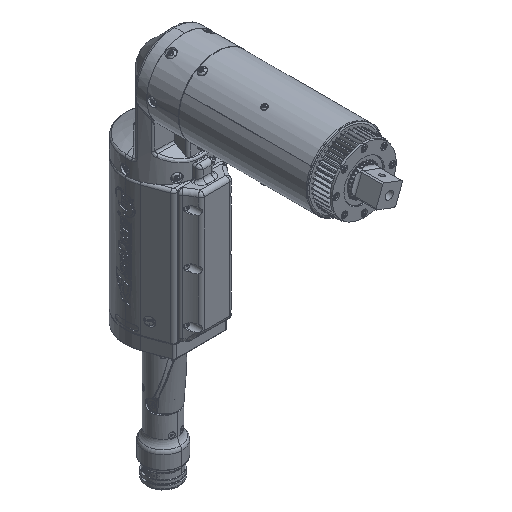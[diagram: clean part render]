
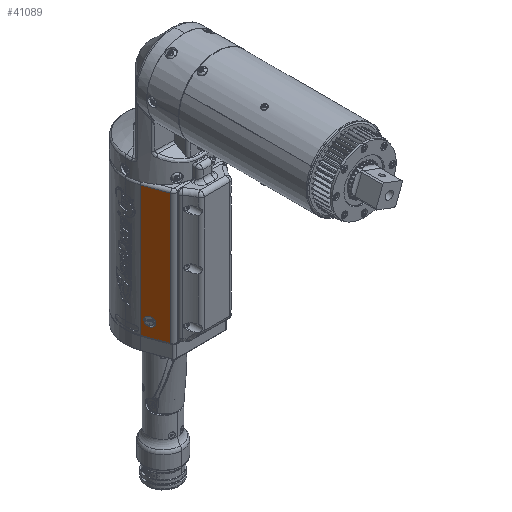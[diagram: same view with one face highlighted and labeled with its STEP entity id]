
A CAD part, isometric view. The second image highlights one B-rep face of the part: STEP entity #41089.
In plain terms, the highlighted planar face has unit normal (-0.94, -0.342, 0).
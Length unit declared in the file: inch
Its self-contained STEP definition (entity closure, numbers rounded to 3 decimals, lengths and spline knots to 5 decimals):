
#2135 = DIRECTION ( 'NONE',  ( 0.342, -0.94, 0. ) ) ;
#3045 = CARTESIAN_POINT ( 'NONE',  ( -1.30839, -1.66839, -12.415 ) ) ;
#3421 = CARTESIAN_POINT ( 'NONE',  ( -1.58292, -0.9139, -11.95248 ) ) ;
#10677 = CARTESIAN_POINT ( 'NONE',  ( -1.53272, -1.05186, -11.49735 ) ) ;
#11285 = ORIENTED_EDGE ( 'NONE', *, *, #49091, .F. ) ;
#13197 = EDGE_CURVE ( 'NONE', #51987, #90099, #75400, .T. ) ;
#13338 = DIRECTION ( 'NONE',  ( -0.342, 0.94, 0. ) ) ;
#14229 = VERTEX_POINT ( 'NONE', #52585 ) ;
#16234 = CARTESIAN_POINT ( 'NONE',  ( -1.49414, -1.15789, -11.59142 ) ) ;
#18057 = CARTESIAN_POINT ( 'NONE',  ( -1.49414, -1.15789, -11.88058 ) ) ;
#19765 = CARTESIAN_POINT ( 'NONE',  ( -1.2605, -1.8, -6.24 ) ) ;
#22065 = ORIENTED_EDGE ( 'NONE', *, *, #13197, .T. ) ;
#23757 = DIRECTION ( 'NONE',  ( 0., 0., 1. ) ) ;
#24663 = DIRECTION ( 'NONE',  ( -0.342, 0.94, 0. ) ) ;
#29316 = CARTESIAN_POINT ( 'NONE',  ( -1.2605, -1.8, -12.415 ) ) ;
#29688 = CARTESIAN_POINT ( 'NONE',  ( -1.58292, -0.9139, -11.51952 ) ) ;
#30659 = DIRECTION ( 'NONE',  ( 0.94, 0.342, 0. ) ) ;
#31032 = CARTESIAN_POINT ( 'NONE',  ( -1.58292, -0.9139, -11.51952 ) ) ;
#31372 = ORIENTED_EDGE ( 'NONE', *, *, #49476, .F. ) ;
#32702 = DIRECTION ( 'NONE',  ( 0., 0., 1. ) ) ;
#37202 = VERTEX_POINT ( 'NONE', #29688 ) ;
#37348 = CARTESIAN_POINT ( 'NONE',  ( -1.53272, -1.05186, -11.97465 ) ) ;
#38014 = FACE_BOUND ( 'NONE', #68211, .T. ) ;
#41089 = ADVANCED_FACE ( 'NONE', ( #58692, #38014 ), #72917, .F. ) ;
#43619 = VERTEX_POINT ( 'NONE', #85203 ) ;
#44825 = CARTESIAN_POINT ( 'NONE',  ( -1.69796, -0.59773, -11.57034 ) ) ;
#45364 = LINE ( 'NONE', #87672, #49288 ) ;
#45653 = CARTESIAN_POINT ( 'NONE',  ( -1.58292, -0.9139, -11.95248 ) ) ;
#46194 = CARTESIAN_POINT ( 'NONE',  ( -1.69796, -0.59773, -11.90166 ) ) ;
#46964 = LINE ( 'NONE', #67171, #59738 ) ;
#47974 = CARTESIAN_POINT ( 'NONE',  ( -1.30839, -1.66839, -12.415 ) ) ;
#49091 = EDGE_CURVE ( 'NONE', #37202, #14229, #55760, .T. ) ;
#49288 = VECTOR ( 'NONE', #24663, 39.37008 ) ;
#49476 = EDGE_CURVE ( 'NONE', #14229, #37202, #59410, .T. ) ;
#51925 = EDGE_CURVE ( 'NONE', #43619, #90099, #46964, .T. ) ;
#51987 = VERTEX_POINT ( 'NONE', #68975 ) ;
#52585 = CARTESIAN_POINT ( 'NONE',  ( -1.58292, -0.9139, -11.95248 ) ) ;
#55760 =( BOUNDED_CURVE ( )  B_SPLINE_CURVE ( 3, ( #31032, #44825, #46194, #3421 ),
 .UNSPECIFIED., .F., .T. ) 
 B_SPLINE_CURVE_WITH_KNOTS ( ( 4, 4 ),
 ( 1.72477, 4.55842 ),
 .UNSPECIFIED. ) 
 CURVE ( )  GEOMETRIC_REPRESENTATION_ITEM ( )  RATIONAL_B_SPLINE_CURVE ( ( 1., 0.436, 0.436, 1. ) ) 
 REPRESENTATION_ITEM ( '' )  );
#58496 = CARTESIAN_POINT ( 'NONE',  ( -1.58292, -0.9139, -11.51952 ) ) ;
#58613 = ORIENTED_EDGE ( 'NONE', *, *, #88860, .F. ) ;
#58692 = FACE_OUTER_BOUND ( 'NONE', #69525, .T. ) ;
#59410 =( BOUNDED_CURVE ( )  B_SPLINE_CURVE ( 3, ( #45653, #37348, #18057, #80616, #16234, #10677, #58496 ),
 .UNSPECIFIED., .F., .F. ) 
 B_SPLINE_CURVE_WITH_KNOTS ( ( 4, 3, 4 ),
 ( 4.55842, 6.28319, 8.00795 ),
 .UNSPECIFIED. ) 
 CURVE ( )  GEOMETRIC_REPRESENTATION_ITEM ( )  RATIONAL_B_SPLINE_CURVE ( ( 1., 0.767, 0.767, 1., 0.767, 0.767, 1. ) ) 
 REPRESENTATION_ITEM ( '' )  );
#59738 = VECTOR ( 'NONE', #32702, 39.37008 ) ;
#60682 = EDGE_CURVE ( 'NONE', #75285, #51987, #79865, .T. ) ;
#63516 = ORIENTED_EDGE ( 'NONE', *, *, #51925, .F. ) ;
#67171 = CARTESIAN_POINT ( 'NONE',  ( -1.6915, -0.61548, -12.415 ) ) ;
#68211 = EDGE_LOOP ( 'NONE', ( #31372, #11285 ) ) ;
#68418 = VECTOR ( 'NONE', #13338, 39.37008 ) ;
#68975 = CARTESIAN_POINT ( 'NONE',  ( -1.30839, -1.66839, -6.24 ) ) ;
#69525 = EDGE_LOOP ( 'NONE', ( #78193, #22065, #63516, #58613 ) ) ;
#72917 = PLANE ( 'NONE',  #80454 ) ;
#74516 = CARTESIAN_POINT ( 'NONE',  ( -1.6915, -0.61548, -6.24 ) ) ;
#75285 = VERTEX_POINT ( 'NONE', #47974 ) ;
#75400 = LINE ( 'NONE', #19765, #68418 ) ;
#78193 = ORIENTED_EDGE ( 'NONE', *, *, #60682, .T. ) ;
#79865 = LINE ( 'NONE', #3045, #82561 ) ;
#80454 = AXIS2_PLACEMENT_3D ( 'NONE', #29316, #30659, #2135 ) ;
#80616 = CARTESIAN_POINT ( 'NONE',  ( -1.49414, -1.15789, -11.736 ) ) ;
#82561 = VECTOR ( 'NONE', #23757, 39.37008 ) ;
#85203 = CARTESIAN_POINT ( 'NONE',  ( -1.6915, -0.61548, -12.415 ) ) ;
#87672 = CARTESIAN_POINT ( 'NONE',  ( -1.2605, -1.8, -12.415 ) ) ;
#88860 = EDGE_CURVE ( 'NONE', #75285, #43619, #45364, .T. ) ;
#90099 = VERTEX_POINT ( 'NONE', #74516 ) ;
